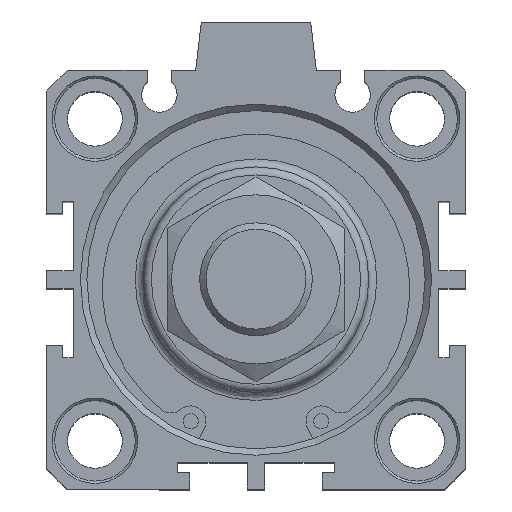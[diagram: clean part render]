
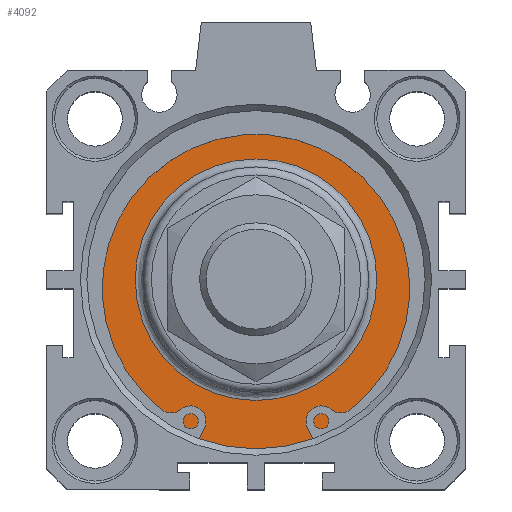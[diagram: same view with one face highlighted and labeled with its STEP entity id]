
A CAD part, top view. The second image highlights one B-rep face of the part: STEP entity #4092.
In plain terms, the highlighted planar face has unit normal (0, 0, 1).
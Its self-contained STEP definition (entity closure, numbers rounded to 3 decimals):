
#4041=CARTESIAN_POINT('',(-1.555,16.077,62.4));
#4042=VERTEX_POINT('',#4041);
#4043=CARTESIAN_POINT('',(-1.555,1.077,62.4));
#4044=DIRECTION('',(0.0,0.0,1.0));
#4045=DIRECTION('',(0.0,-1.0,0.0));
#4046=AXIS2_PLACEMENT_3D('',#4043,#4044,#4045);
#4047=CIRCLE('',#4046,15.);
#4048=EDGE_CURVE('',#4042,#4042,#4047,.T.);
#4073=CARTESIAN_POINT('',(-1.555,18.577,62.4));
#4074=DIRECTION('',(0.0,0.0,1.0));
#4075=DIRECTION('',(1.0,0.0,0.0));
#4076=AXIS2_PLACEMENT_3D('',#4073,#4074,#4075);
#4077=PLANE('',#4076);
#4078=CARTESIAN_POINT('',(-1.555,22.077,62.4));
#4079=VERTEX_POINT('',#4078);
#4080=CARTESIAN_POINT('',(-1.555,1.077,62.4));
#4081=DIRECTION('',(0.0,0.0,-1.0));
#4082=DIRECTION('',(0.0,1.0,0.0));
#4083=AXIS2_PLACEMENT_3D('',#4080,#4081,#4082);
#4084=CIRCLE('',#4083,21.);
#4085=EDGE_CURVE('',#4079,#4079,#4084,.T.);
#4086=ORIENTED_EDGE('',*,*,#4085,.F.);
#4087=EDGE_LOOP('',(#4086));
#4088=FACE_OUTER_BOUND('',#4087,.T.);
#4089=ORIENTED_EDGE('',*,*,#4048,.F.);
#4090=EDGE_LOOP('',(#4089));
#4091=FACE_BOUND('',#4090,.T.);
#4092=ADVANCED_FACE('',(#4088,#4091),#4077,.T.);
